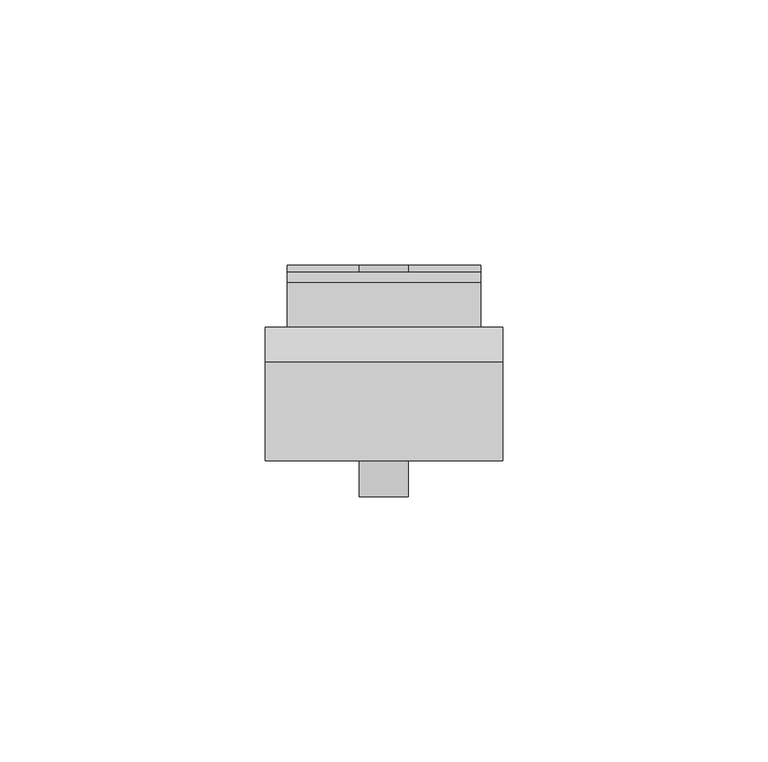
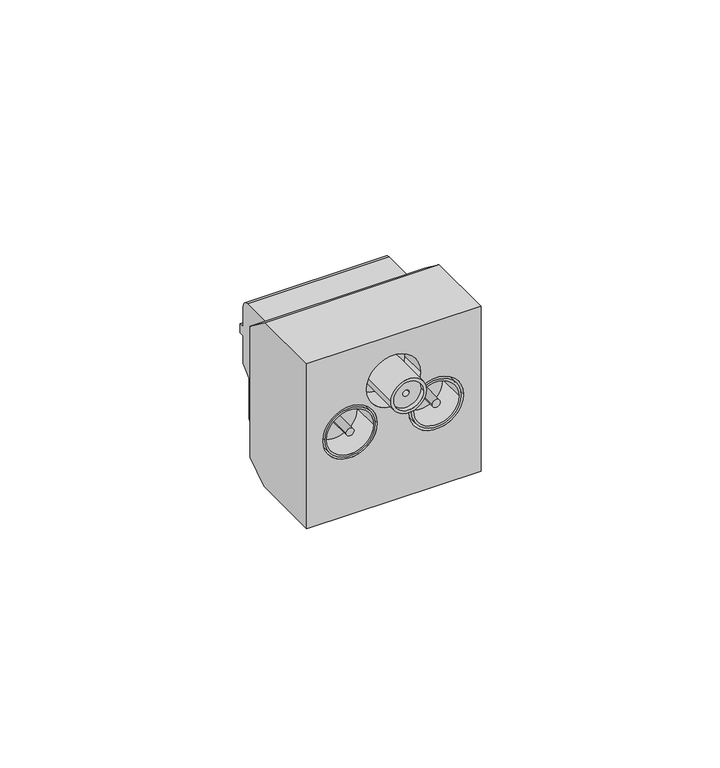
"""IFC4 building model written with IfcOpenShell, lengths in millimetres: proxy geometry."""

from ifc_helpers import new_model, si_unit, point, frame, frame_2d, origin, place, context, project, spatial, polyline, circle_curve, trimmed, segment, composite_curve, outline, extrude, source, transform, mapped, element, save
from ifc_brep_helpers import plane_surface, cylinder_surface, revolved_surface, advanced_brep


def electrical_fixtures_5e17c1f7(model_context):
    return source(origin(), model_context, "Body", "SolidModel", [
        advanced_brep(
        [(18.5824359, -12.5839781, 10.0516958), (26.2312663, -12.5839781, 10.0516958), (23.2074689, -12.5839781, 10.0516958), (21.6062333, -12.5839781, 10.0516958), (18.5824359, -13.8, 10.0516958), (26.2312663, -13.8, 10.0516958), (17.8008039, -13.8, 10.0516958), (27.0128982, -13.8, 10.0516958), (17.8008039, 29.9, 10.0516958), (27.0128982, 29.9, 10.0516958), (21.6062333, 0.0, 10.0516958), (23.2074689, 0.0, 10.0516958)],
        [
            (0, 1, circle_curve(frame((22.4068511, -12.5839781, 10.0516958), z_axis=(0.0, -1.0, 0.0), x_axis=(1.0, 0.0, 0.0)), 3.8244152)),
            (1, 0, circle_curve(frame((22.4068511, -12.5839781, 10.0516958), z_axis=(0.0, -1.0, 0.0), x_axis=(1.0, 0.0, 0.0)), 3.8244152)),
            (2, 3, circle_curve(frame((22.4068511, -12.5839781, 10.0516958), z_axis=(0.0, 1.0, 0.0), x_axis=(1.0, 0.0, 0.0)), 0.8006178)),
            (3, 2, circle_curve(frame((22.4068511, -12.5839781, 10.0516958), z_axis=(0.0, 1.0, 0.0), x_axis=(1.0, 0.0, 0.0)), 0.8006178)),
            (0, 4),
            (4, 5, circle_curve(frame((22.4068511, -13.8, 10.0516958), z_axis=(0.0, -1.0, 0.0), x_axis=(1.0, 0.0, 0.0)), 3.8244152)),
            (5, 1),
            (5, 4, circle_curve(frame((22.4068511, -13.8, 10.0516958), z_axis=(0.0, -1.0, 0.0), x_axis=(1.0, 0.0, 0.0)), 3.8244152)),
            (6, 7, circle_curve(frame((22.4068511, -13.8, 10.0516958), z_axis=(0.0, -1.0, 0.0), x_axis=(1.0, 0.0, 0.0)), 4.6060471)),
            (7, 6, circle_curve(frame((22.4068511, -13.8, 10.0516958), z_axis=(0.0, -1.0, 0.0), x_axis=(1.0, 0.0, 0.0)), 4.6060471)),
            (8, 9, circle_curve(frame((22.4068511, 29.9, 10.0516958), z_axis=(0.0, 1.0, 0.0), x_axis=(1.0, 0.0, 0.0)), 4.6060471)),
            (9, 8, circle_curve(frame((22.4068511, 29.9, 10.0516958), z_axis=(0.0, 1.0, 0.0), x_axis=(1.0, 0.0, 0.0)), 4.6060471)),
            (6, 8),
            (9, 7),
            (10, 11, circle_curve(frame((22.4068511, 0.0, 10.0516958), z_axis=(0.0, -1.0, 0.0), x_axis=(1.0, 0.0, 0.0)), 0.8006178)),
            (11, 10, circle_curve(frame((22.4068511, 0.0, 10.0516958), z_axis=(0.0, -1.0, 0.0), x_axis=(1.0, 0.0, 0.0)), 0.8006178)),
            (10, 3),
            (2, 11),
        ],
        [
            plane_surface(frame((26.2312663, -12.5839781, 10.0516958), z_axis=(0.0, -1.0, 0.0), x_axis=(0.0, 0.0, -1.0))),
            revolved_surface(polyline([(26.2312663, -13.8, 10.0516958), (26.2312663, -12.5839781, 10.0516958)]), (22.4068511, -12.5839781, 10.0516958), (0.0, -1.0, 0.0)),
            plane_surface(frame((27.0128982, -13.8, 10.0516958), z_axis=(0.0, -1.0, 0.0), x_axis=(0.0, 0.0, 1.0))),
            plane_surface(frame((27.0128982, 29.9, 10.0516958), z_axis=(0.0, 1.0, 0.0), x_axis=(0.0, 0.0, -1.0))),
            cylinder_surface(frame((22.4068511, 29.9, 10.0516958), z_axis=(0.0, -1.0, 0.0), x_axis=(1.0, 0.0, 0.0)), 4.6060471),
            plane_surface(frame((23.2074689, 0.0, 10.0516958), z_axis=(0.0, -1.0, 0.0), x_axis=(0.0, 0.0, -1.0))),
            revolved_surface(polyline([(23.207468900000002, -12.5839781, 10.0516958), (23.207468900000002, 0.0, 10.0516958)]), (22.4068511, 0.0, 10.0516958), (0.0, -1.0, 0.0)),
        ],
        [
            (0, [[1, 2], [3, 4]]),
            (1, [[-1, 5, 6, 7]]),
            (1, [[-2, -7, 8, -5]]),
            (2, [[9, 10], [-6, -8]]),
            (3, [[11, 12]]),
            (4, [[-9, 13, -12, 14]]),
            (4, [[-10, -14, -11, -13]]),
            (5, [[15, 16]]),
            (6, [[-15, 17, -3, 18]]),
            (6, [[-16, -18, -4, -17]]),
        ],
    ),
        extrude(outline(composite_curve([segment(trimmed(circle_curve(frame_2d((0.0, 11.2)), 6.5), [point((0.0, 4.7))], [point((0.0, 17.7))], False, "CARTESIAN"), True, "CONTINUOUS"), segment(trimmed(circle_curve(frame_2d((0.0, 11.2)), 6.5), [point((0.0, 17.7))], [point((0.0, 4.7))], False, "CARTESIAN"), True, "CONTINUOUS")], self_intersect=False), holes=[composite_curve([segment(trimmed(circle_curve(frame_2d((0.0, 11.2)), 6.0), [point((0.0, 17.2))], [point((0.0, 5.2))], True, "CARTESIAN"), True, "CONTINUOUS"), segment(trimmed(circle_curve(frame_2d((0.0, 11.2)), 6.0), [point((0.0, 5.2))], [point((0.0, 17.2))], True, "CARTESIAN"), True, "CONTINUOUS")], self_intersect=False)]), frame((0.0, -7.0, 0.0), z_axis=(0.0, 1.0, 0.0), x_axis=(0.0, 0.0, 1.0)), (0.0, 0.0, 1.0), 7.0),
        extrude(outline(composite_curve([segment(trimmed(circle_curve(frame_2d((0.0, 11.2)), 1.0), [point((0.0, 10.2))], [point((0.0, 12.2))], False, "CARTESIAN"), True, "CONTINUOUS"), segment(trimmed(circle_curve(frame_2d((0.0, 11.2)), 1.0), [point((0.0, 12.2))], [point((0.0, 10.2))], False, "CARTESIAN"), True, "CONTINUOUS")], self_intersect=False)), frame((0.0, -7.0, 0.0), z_axis=(0.0, 1.0, 0.0), x_axis=(0.0, 0.0, 1.0)), (0.0, 0.0, 1.0), 7.0),
        extrude(outline(composite_curve([segment(trimmed(circle_curve(frame_2d((0.0, 33.441107)), 1.0327272), [point((0.0, 32.4083798))], [point((0.0, 34.4738343))], False, "CARTESIAN"), True, "CONTINUOUS"), segment(trimmed(circle_curve(frame_2d((0.0, 33.441107)), 1.0327272), [point((0.0, 34.4738343))], [point((0.0, 32.4083798))], False, "CARTESIAN"), True, "CONTINUOUS")], self_intersect=False)), frame((0.0, -7.0, 0.0), z_axis=(0.0, 1.0, 0.0), x_axis=(0.0, 0.0, 1.0)), (0.0, 0.0, 1.0), 7.0),
        extrude(outline(composite_curve([segment(trimmed(circle_curve(frame_2d((0.0, 33.441107)), 6.3809599), [point((0.0, 27.0601471))], [point((0.0, 39.822067))], False, "CARTESIAN"), True, "CONTINUOUS"), segment(trimmed(circle_curve(frame_2d((0.0, 33.441107)), 6.3809599), [point((0.0, 39.822067))], [point((0.0, 27.0601471))], False, "CARTESIAN"), True, "CONTINUOUS")], self_intersect=False), holes=[composite_curve([segment(trimmed(circle_curve(frame_2d((0.0, 33.441107)), 5.8014451), [point((0.0, 27.6396619))], [point((0.0, 39.2425521))], True, "CARTESIAN"), True, "CONTINUOUS"), segment(trimmed(circle_curve(frame_2d((0.0, 33.441107)), 5.8014451), [point((0.0, 39.2425521))], [point((0.0, 27.6396619))], True, "CARTESIAN"), True, "CONTINUOUS")], self_intersect=False)]), frame((0.0, -7.0, 0.0), z_axis=(0.0, 1.0, 0.0), x_axis=(0.0, 0.0, 1.0)), (0.0, 0.0, 1.0), 7.0),
        extrude(outline(composite_curve([segment(polyline([(18.185865, 16.9466334), (26.6932758, 16.9466334)]), True, "CONTINUOUS"), segment(trimmed(circle_curve(frame_2d((26.6932758, 15.1106572)), 1.8359762), [point((26.6932758, 16.9466334))], [point((28.5292521, 15.1106572))], False, "CARTESIAN"), True, "CONTINUOUS"), segment(polyline([(28.5292521, 15.1106572), (28.5292521, 9.5832394), (29.9, 9.5832394), (29.9, 7.1468956), (28.5292521, 7.1468956), (28.5292521, -0.3125), (25.9192438, -2.9225083), (25.9192438, -13.4478336)]), True, "CONTINUOUS"), segment(trimmed(circle_curve(frame_2d((23.9332742, -13.4478336)), 1.9859696), [point((25.9192438, -13.4478336))], [point((23.9332742, -15.4338031))], False, "CARTESIAN"), True, "CONTINUOUS"), segment(polyline([(23.9332742, -15.4338031), (18.185865, -15.4338031), (18.185865, 16.9466334)]), True, "CONTINUOUS")], self_intersect=False)), frame((4.2, 0.0, 0.0), z_axis=(1.0, 0.0, 0.0), x_axis=(0.0, 1.0, 0.0)), (0.0, 0.0, 1.0), 36.5),
        advanced_brep(
        [(44.9, -7.0, -22.45), (44.9, -7.0, 22.45), (0.0, -7.0, 22.45), (0.0, -7.0, -22.45), (18.2, -7.0, 0.0), (4.2, -7.0, 0.0), (29.3393356, -7.0, 10.0516958), (15.4743666, -7.0, 10.0516958), (40.441107, -7.0, 0.0), (26.441107, -7.0, 0.0), (44.9, 12.0, -22.45), (44.9, 18.185865, -18.2775814), (44.9, 18.185865, 17.4747472), (44.9, 11.5834815, 22.45), (0.0, 11.5834815, 22.45), (0.0, 18.185865, 17.4747472), (0.0, 18.185865, -18.2775814), (0.0, 12.0, -22.45), (4.2, 0.0, 0.0), (18.2, 0.0, 0.0), (15.4743666, 0.0, 10.0516958), (29.3393356, 0.0, 10.0516958), (26.441107, 0.0, 0.0), (40.441107, 0.0, 0.0)],
        [
            (0, 1),
            (1, 2),
            (2, 3),
            (3, 0),
            (4, 5, circle_curve(frame((11.2, -7.0, 0.0), z_axis=(0.0, 1.0, 0.0), x_axis=(1.0, 0.0, 0.0)), 7.0)),
            (5, 4, circle_curve(frame((11.2, -7.0, 0.0), z_axis=(0.0, 1.0, 0.0), x_axis=(1.0, 0.0, 0.0)), 7.0)),
            (6, 7, circle_curve(frame((22.4068511, -7.0, 10.0516958), z_axis=(0.0, 1.0, 0.0), x_axis=(1.0, 0.0, 0.0)), 6.9324845)),
            (7, 6, circle_curve(frame((22.4068511, -7.0, 10.0516958), z_axis=(0.0, 1.0, 0.0), x_axis=(1.0, 0.0, 0.0)), 6.9324845)),
            (8, 9, circle_curve(frame((33.441107, -7.0, 0.0), z_axis=(0.0, 1.0, 0.0), x_axis=(1.0, 0.0, 0.0)), 7.0)),
            (9, 8, circle_curve(frame((33.441107, -7.0, 0.0), z_axis=(0.0, 1.0, 0.0), x_axis=(1.0, 0.0, 0.0)), 7.0)),
            (0, 10),
            (10, 11),
            (11, 12),
            (12, 13),
            (13, 1),
            (13, 14),
            (14, 2),
            (14, 15),
            (15, 16),
            (16, 17),
            (17, 3),
            (17, 10),
            (16, 11),
            (15, 12),
            (18, 19, circle_curve(frame((11.2, 0.0, 0.0), z_axis=(0.0, -1.0, 0.0), x_axis=(1.0, 0.0, 0.0)), 7.0)),
            (19, 18, circle_curve(frame((11.2, 0.0, 0.0), z_axis=(0.0, -1.0, 0.0), x_axis=(1.0, 0.0, 0.0)), 7.0)),
            (20, 21, circle_curve(frame((22.4068511, 0.0, 10.0516958), z_axis=(0.0, -1.0, 0.0), x_axis=(1.0, 0.0, 0.0)), 6.9324845)),
            (21, 20, circle_curve(frame((22.4068511, 0.0, 10.0516958), z_axis=(0.0, -1.0, 0.0), x_axis=(1.0, 0.0, 0.0)), 6.9324845)),
            (22, 23, circle_curve(frame((33.441107, 0.0, 0.0), z_axis=(0.0, -1.0, 0.0), x_axis=(1.0, 0.0, 0.0)), 7.0)),
            (23, 22, circle_curve(frame((33.441107, 0.0, 0.0), z_axis=(0.0, -1.0, 0.0), x_axis=(1.0, 0.0, 0.0)), 7.0)),
            (18, 5),
            (4, 19),
            (20, 7),
            (6, 21),
            (22, 9),
            (8, 23),
        ],
        [
            plane_surface(frame((44.9, -7.0, -22.45), z_axis=(0.0, -1.0, 0.0), x_axis=(0.0, 0.0, 1.0))),
            plane_surface(frame((44.9, -7.0, -22.45), z_axis=(1.0, 0.0, 0.0), x_axis=(0.0, 1.0, 0.0))),
            plane_surface(frame((44.9, -7.0, 22.45), z_axis=(0.0, 0.0, 1.0), x_axis=(0.0, 1.0, 0.0))),
            plane_surface(frame((0.0, -7.0, 22.45), z_axis=(-1.0, 0.0, 0.0), x_axis=(0.0, 1.0, 0.0))),
            plane_surface(frame((0.0, -7.0, -22.45), z_axis=(0.0, 0.0, -1.0), x_axis=(0.0, 1.0, 0.0))),
            plane_surface(frame((44.9, 12.0, -22.45), z_axis=(0.0, 0.5591929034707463, -0.8290375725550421), x_axis=(-1.0, 0.0, 0.0))),
            plane_surface(frame((44.9, 18.185865, -18.2775814), z_axis=(0.0, 1.0, 0.0), x_axis=(-1.0, 0.0, 0.0))),
            plane_surface(frame((44.9, 18.185865, 17.4747472), z_axis=(0.0, 0.6018150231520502, 0.7986355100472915), x_axis=(-1.0, 0.0, 0.0))),
            plane_surface(frame((18.2, 0.0, 0.0), z_axis=(0.0, -1.0, 0.0), x_axis=(0.0, 0.0, -1.0))),
            revolved_surface(polyline([(18.2, -7.0, 0.0), (18.2, 0.0, 0.0)]), (11.2, 0.0, 0.0), (0.0, -1.0, 0.0)),
            revolved_surface(polyline([(29.339335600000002, -7.0, 10.0516958), (29.339335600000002, 0.0, 10.0516958)]), (22.4068511, 0.0, 10.0516958), (0.0, -1.0, 0.0)),
            revolved_surface(polyline([(40.441107, -7.0, 0.0), (40.441107, 0.0, 0.0)]), (33.441107, 0.0, 0.0), (0.0, -1.0, 0.0)),
        ],
        [
            (0, [[1, 2, 3, 4], [5, 6], [7, 8], [9, 10]]),
            (1, [[-1, 11, 12, 13, 14, 15]]),
            (2, [[-2, -15, 16, 17]]),
            (3, [[-3, -17, 18, 19, 20, 21]]),
            (4, [[-4, -21, 22, -11]]),
            (5, [[-12, -22, -20, 23]]),
            (6, [[-13, -23, -19, 24]]),
            (7, [[-14, -24, -18, -16]]),
            (8, [[25, 26]]),
            (8, [[27, 28]]),
            (8, [[29, 30]]),
            (9, [[-25, 31, -5, 32]]),
            (9, [[-26, -32, -6, -31]]),
            (10, [[-27, 33, -7, 34]]),
            (10, [[-28, -34, -8, -33]]),
            (11, [[-29, 35, -9, 36]]),
            (11, [[-30, -36, -10, -35]]),
        ],
    ),
    ])


if __name__ == "__main__":
    model = new_model("IFC4")
    model_context = context("Model", 3, world=origin())
    ifc_project = project(units=[si_unit("LENGTHUNIT", "METRE", prefix="MILLI")], contexts=[model_context])
    site = spatial("IfcSite", under=ifc_project)
    building = spatial("IfcBuilding", under=site)
    placement = place(None, origin())
    electrical_fixtures_shape = electrical_fixtures_5e17c1f7(model_context)
    element("IfcBuildingElementProxy", 1, Name="Electrical Fixtures", at=placement, inside=building, context=model_context, shape_type="MappedRepresentation", body=[
        mapped(electrical_fixtures_shape, transform((0.0, 0.0, 0.0), x_axis=(1.0, 0.0, 0.0), y_axis=(0.0, 1.0, 0.0), z_axis=(0.0, 0.0, 1.0))),
    ])
    save(model, "model.ifc")
